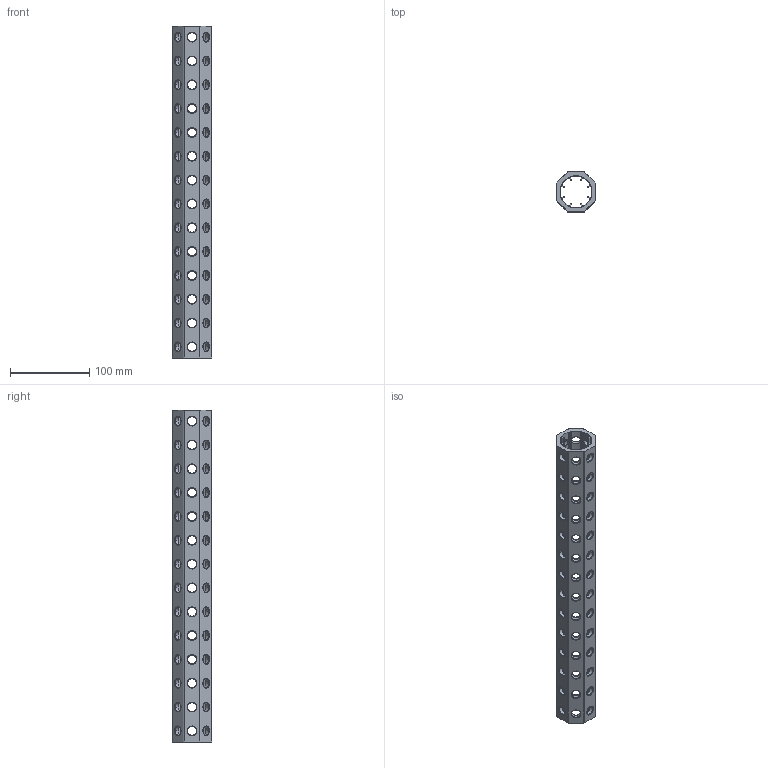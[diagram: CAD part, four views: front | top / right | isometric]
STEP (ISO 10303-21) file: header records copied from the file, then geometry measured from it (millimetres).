
FILE_DESCRIPTION(('CATIA V5 STEP Exchange'),'2;1');
FILE_NAME('U:\Room\唐宝山\EGT002\46-01-010243-01-EGT002-418.stp','2021-08-24T01:00:34+00:00',('none'),('none'),'CATIA Version 5 Release 21 GA (IN-10)','CATIA V5 STEP AP203','none');
FILE_SCHEMA(('CONFIG_CONTROL_DESIGN'));
Length unit declared in the file: millimetre
Products named in the file (1): 46-01-010243-01-EGT002-418
Bounding box: 50 x 50 x 418 mm (x, y, z)
Volume: 297613.7 mm3; surface area: 144909.8 mm2
Topology: 1 solids, 1 shells, 644 faces, 1786 edges, 1116 vertices
Faces by surface type: cone 336, cylinder 282, plane 26
Entity records: 26071 total; most frequent: CARTESIAN_POINT 10362, ORIENTED_EDGE 3572, DIRECTION 2536, EDGE_CURVE 1786, AXIS2_PLACEMENT_3D 1175, VERTEX_POINT 1116, EDGE_LOOP 842, VECTOR 718
